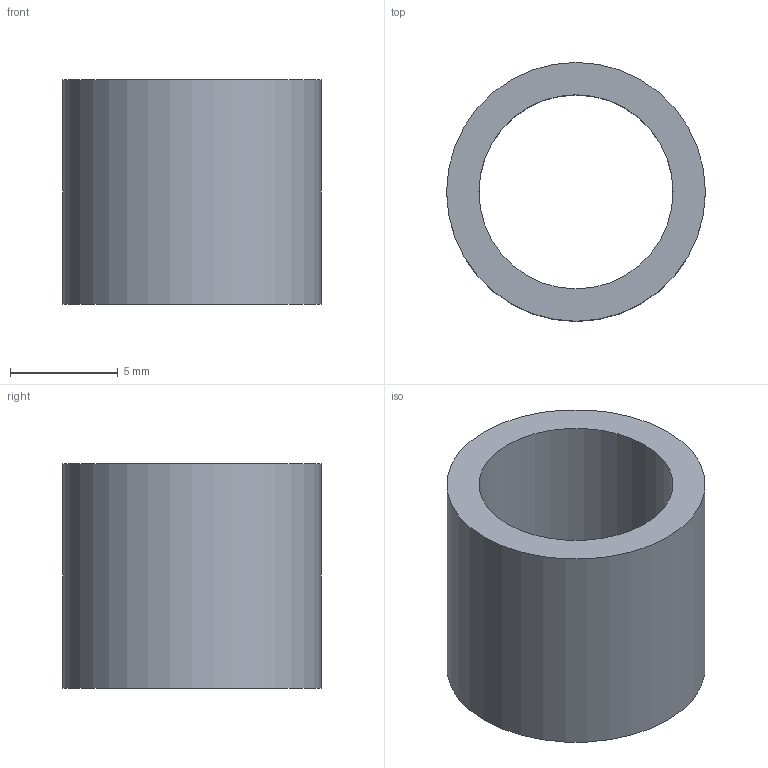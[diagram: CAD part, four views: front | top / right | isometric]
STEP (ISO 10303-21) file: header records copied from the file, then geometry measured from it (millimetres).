
FILE_DESCRIPTION(/* description */ (''),/* implementation_level */ '2;1');
FILE_NAME(/* name */ 'D:\3D печать\Мои проекты\Archy MK 2\STEP\MK3\втулка плеча.stp',/* time_stamp */ '2019-07-18T21:39:51+06:00',/* author */ ('Пользователь'),/* organization */ (''),/* preprocessor_version */ 'ST-DEVELOPER v16.5',/* originating_system */ 'Autodesk Inventor 2017',/* authorisation */ '');
FILE_SCHEMA (('AUTOMOTIVE_DESIGN { 1 0 10303 214 3 1 1 }'));
Length unit declared in the file: millimetre
Products named in the file (1): втулка плеча
Bounding box: 12 x 12 x 10.4 mm (x, y, z)
Volume: 514.6 mm3; surface area: 785.1 mm2
Topology: 1 solids, 1 shells, 4 faces, 6 edges, 4 vertices
Faces by surface type: cylinder 2, plane 2
Full cylindrical faces by diameter (mm): 9 x1, 12 x1
Entity records: 112 total; most frequent: DIRECTION 18, CARTESIAN_POINT 13, AXIS2_PLACEMENT_3D 9, EDGE_LOOP 8, ORIENTED_EDGE 8, FACE_BOUND 4, FACE_OUTER_BOUND 4, CIRCLE 4
